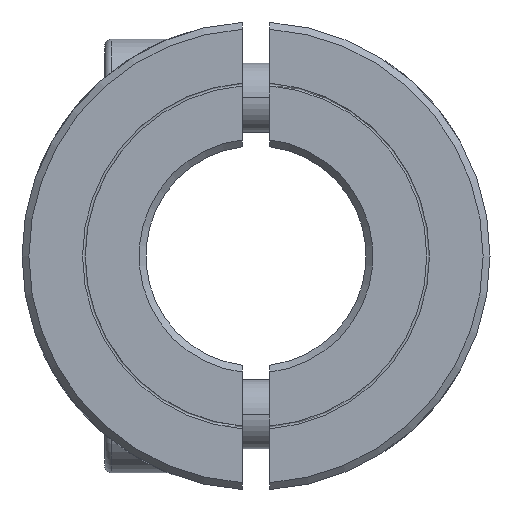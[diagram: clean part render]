
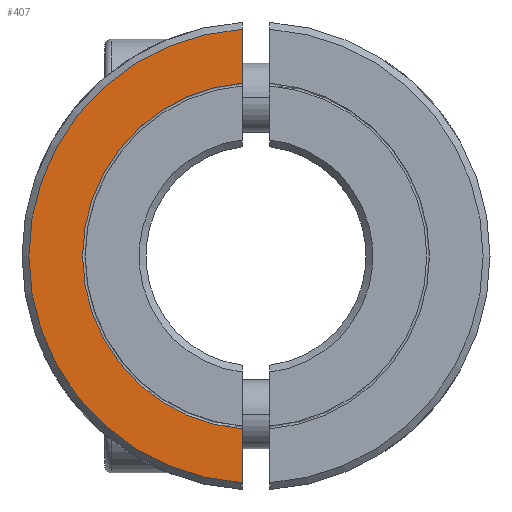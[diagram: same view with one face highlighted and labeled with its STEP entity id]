
A CAD part, left-side view. The second image highlights one B-rep face of the part: STEP entity #407.
In plain terms, the highlighted planar face has unit normal (-1, 0, 0).
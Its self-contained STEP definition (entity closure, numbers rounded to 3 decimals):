
#26=CARTESIAN_POINT('',(-6.5,0.,0.));
#27=DIRECTION('',(-1.,0.,0.));
#28=DIRECTION('',(0.,0.079,0.997));
#29=AXIS2_PLACEMENT_3D('',#26,#27,#28);
#31=DIRECTION('',(0.,0.,-1.));
#32=VECTOR('',#31,3.909);
#33=CARTESIAN_POINT('',(-6.5,1.,-12.56));
#34=LINE('',#33,#32);
#35=DIRECTION('',(0.,0.,-1.));
#36=VECTOR('',#35,3.909);
#37=CARTESIAN_POINT('',(-6.5,1.,16.47));
#38=LINE('',#37,#36);
#207=CARTESIAN_POINT('',(-6.5,0.,0.));
#208=DIRECTION('',(1.,0.,0.));
#209=DIRECTION('',(0.,0.061,-0.998));
#210=AXIS2_PLACEMENT_3D('',#207,#208,#209);
#352=CARTESIAN_POINT('',(-6.5,1.,-16.47));
#353=CARTESIAN_POINT('',(-6.5,1.,16.47));
#354=VERTEX_POINT('',#352);
#355=VERTEX_POINT('',#353);
#384=CARTESIAN_POINT('',(-6.5,1.,12.56));
#385=CARTESIAN_POINT('',(-6.5,1.,-12.56));
#386=VERTEX_POINT('',#384);
#387=VERTEX_POINT('',#385);
#392=CARTESIAN_POINT('',(-6.5,0.,0.));
#393=DIRECTION('',(1.,0.,0.));
#394=DIRECTION('',(0.,0.,-1.));
#395=AXIS2_PLACEMENT_3D('',#392,#393,#394);
#396=PLANE('',#395);
#398=ORIENTED_EDGE('',*,*,#397,.T.);
#400=ORIENTED_EDGE('',*,*,#399,.T.);
#402=ORIENTED_EDGE('',*,*,#401,.T.);
#404=ORIENTED_EDGE('',*,*,#403,.T.);
#405=EDGE_LOOP('',(#398,#400,#402,#404));
#406=FACE_OUTER_BOUND('',#405,.F.);
#407=ADVANCED_FACE('',(#406),#396,.F.);
#30=CIRCLE('',#29,12.6);
#211=CIRCLE('',#210,16.5);
#397=EDGE_CURVE('',#386,#387,#30,.T.);
#399=EDGE_CURVE('',#387,#354,#34,.T.);
#401=EDGE_CURVE('',#354,#355,#211,.T.);
#403=EDGE_CURVE('',#355,#386,#38,.T.);
